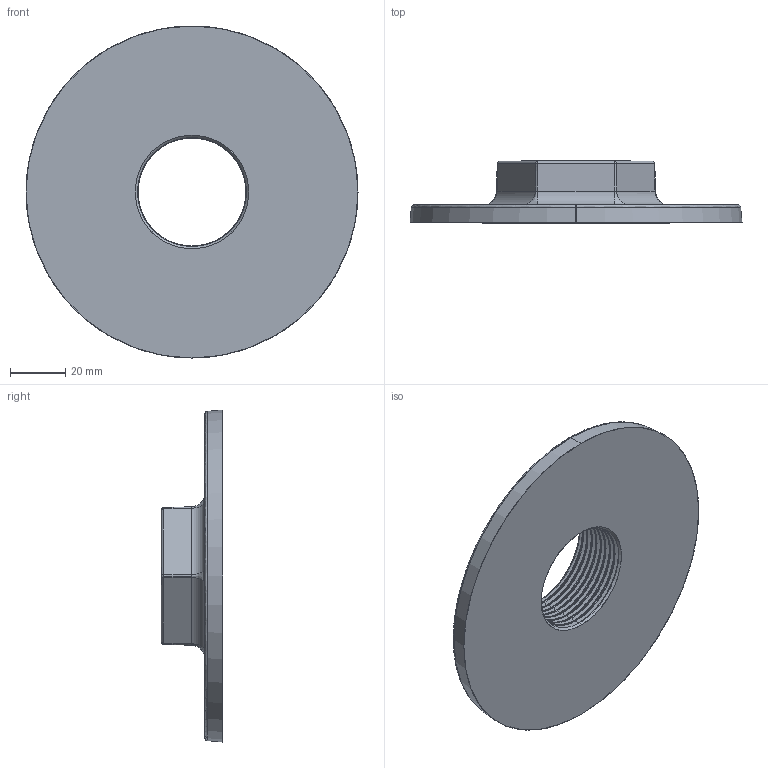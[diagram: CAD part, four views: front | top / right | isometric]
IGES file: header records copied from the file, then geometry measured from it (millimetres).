
Start section: SolidWorks IGES file using analytic representation for surfaces
Global section: file name: C:\Users\Joel Rosa\Desktop\Tubulação\12-99-OK\12-99-008.IGS; native system: SolidWorks 2011; preprocessor: SolidWorks 2011; author: Joel Rosa; date: 131021.205423; units: millimetre
Bounding box: 120 x 22.3 x 120 mm (x, y, z)
Surface area: 29062.8 mm2 (no closed solid volume)
Topology: 0 solids, 0 shells, 256 faces, 1946 edges, 1946 vertices
Faces by surface type: bspline 187, revolution 69
